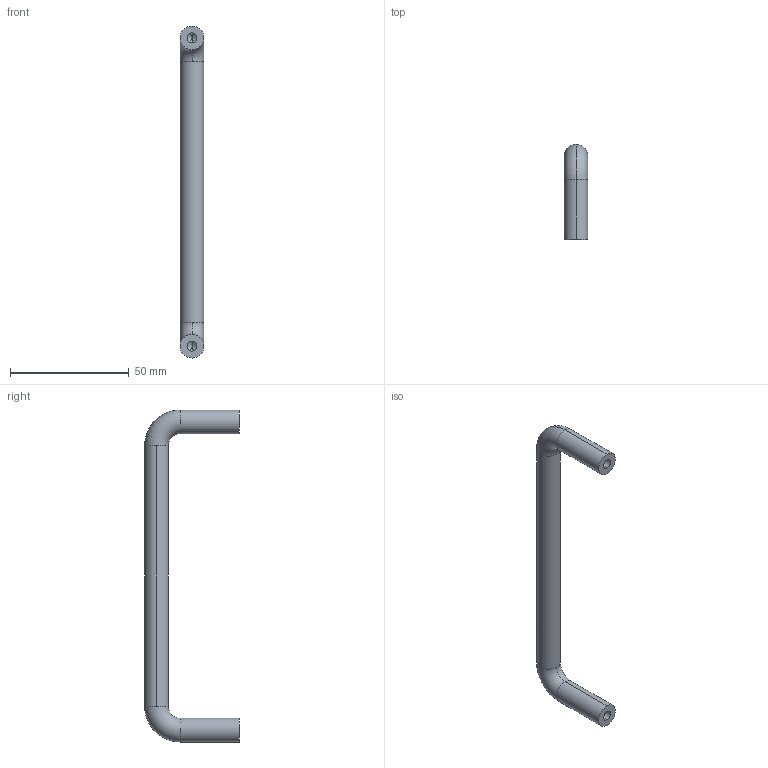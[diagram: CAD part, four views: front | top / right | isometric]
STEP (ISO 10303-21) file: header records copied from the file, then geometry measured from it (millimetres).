
FILE_DESCRIPTION (( 'STEP AP203' ), '1' );
FILE_NAME ('E03-503130.STEP', '2023-04-20T06:43:26', ( '' ), ( '' ), 'SwSTEP 2.0', 'SolidWorks 2021', '' );
FILE_SCHEMA (( 'CONFIG_CONTROL_DESIGN' ));
Length unit declared in the file: millimetre
Products named in the file (1): E03-503130
Bounding box: 10 x 40 x 140 mm (x, y, z)
Volume: 14634.2 mm3; surface area: 6544.7 mm2
Topology: 1 solids, 1 shells, 20 faces, 46 edges, 26 vertices
Faces by surface type: cylinder 10, torus 4, cone 4, plane 2
Entity records: 623 total; most frequent: DIRECTION 112, CARTESIAN_POINT 89, ORIENTED_EDGE 84, AXIS2_PLACEMENT_3D 49, EDGE_CURVE 42, CIRCLE 28, VERTEX_POINT 26, EDGE_LOOP 22
